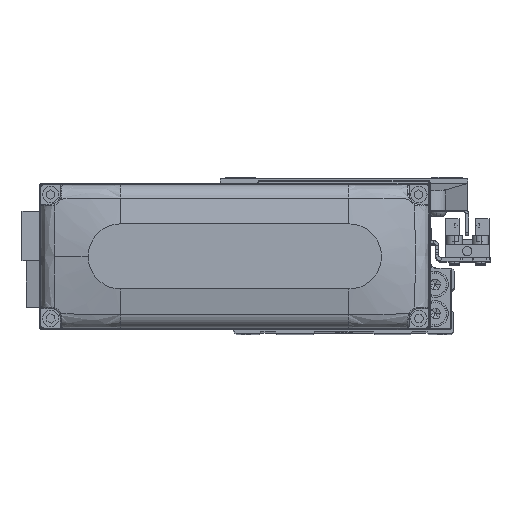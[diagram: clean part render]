
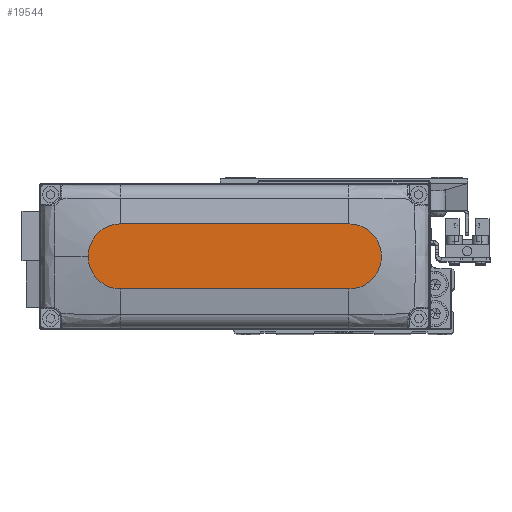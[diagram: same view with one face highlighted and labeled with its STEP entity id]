
A CAD part, top view. The second image highlights one B-rep face of the part: STEP entity #19544.
In plain terms, the highlighted planar face has unit normal (0, 0, 1).
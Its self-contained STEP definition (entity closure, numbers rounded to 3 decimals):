
#1217 = ORIENTED_EDGE ( 'NONE', *, *, #10410, .T. ) ;
#1505 = CARTESIAN_POINT ( 'NONE',  ( 0., 0., 28. ) ) ;
#1607 = DIRECTION ( 'NONE',  ( 0., 0., 1. ) ) ;
#2678 = DIRECTION ( 'NONE',  ( -1., 0., 0. ) ) ;
#7596 = DIRECTION ( 'NONE',  ( 0., 0., 1. ) ) ;
#8503 = DIRECTION ( 'NONE',  ( 1., 0., 0. ) ) ;
#8673 = AXIS2_PLACEMENT_3D ( 'NONE', #31531, #1607, #14940 ) ;
#9814 = CIRCLE ( 'NONE', #34185, 10. ) ;
#10410 = EDGE_CURVE ( 'NONE', #20889, #27041, #40100, .T. ) ;
#10446 = CARTESIAN_POINT ( 'NONE',  ( -35., -10., 28. ) ) ;
#10993 = ORIENTED_EDGE ( 'NONE', *, *, #12384, .T. ) ;
#11485 = ORIENTED_EDGE ( 'NONE', *, *, #15324, .T. ) ;
#11863 = VECTOR ( 'NONE', #23752, 1000. ) ;
#12384 = EDGE_CURVE ( 'NONE', #27041, #25118, #27483, .T. ) ;
#14842 = DIRECTION ( 'NONE',  ( 0., 0., 1. ) ) ;
#14940 = DIRECTION ( 'NONE',  ( 1., 0., 0. ) ) ;
#15324 = EDGE_CURVE ( 'NONE', #25118, #20271, #19278, .T. ) ;
#16120 = CARTESIAN_POINT ( 'NONE',  ( 35., 10., 28. ) ) ;
#18119 = FACE_OUTER_BOUND ( 'NONE', #30991, .T. ) ;
#19278 = LINE ( 'NONE', #32591, #36026 ) ;
#19544 = ADVANCED_FACE ( 'NONE', ( #18119 ), #31429, .T. ) ;
#20271 = VERTEX_POINT ( 'NONE', #40726 ) ;
#20889 = VERTEX_POINT ( 'NONE', #24676 ) ;
#20912 = DIRECTION ( 'NONE',  ( 1., 0., 0. ) ) ;
#23752 = DIRECTION ( 'NONE',  ( 1., 0., 0. ) ) ;
#24491 = ORIENTED_EDGE ( 'NONE', *, *, #35224, .T. ) ;
#24676 = CARTESIAN_POINT ( 'NONE',  ( 35., -10., 28. ) ) ;
#25072 = CARTESIAN_POINT ( 'NONE',  ( 35., 0., 28. ) ) ;
#25118 = VERTEX_POINT ( 'NONE', #16120 ) ;
#26861 = AXIS2_PLACEMENT_3D ( 'NONE', #25072, #38386, #8503 ) ;
#27041 = VERTEX_POINT ( 'NONE', #34165 ) ;
#27483 = CIRCLE ( 'NONE', #8673, 10. ) ;
#28146 = DIRECTION ( 'NONE',  ( 1., 0., 0. ) ) ;
#29013 = CARTESIAN_POINT ( 'NONE',  ( -35., -10., 28. ) ) ;
#29802 = VERTEX_POINT ( 'NONE', #29013 ) ;
#30805 = ORIENTED_EDGE ( 'NONE', *, *, #35292, .T. ) ;
#30991 = EDGE_LOOP ( 'NONE', ( #11485, #30805, #24491, #1217, #10993 ) ) ;
#31429 = PLANE ( 'NONE',  #37399 ) ;
#31531 = CARTESIAN_POINT ( 'NONE',  ( 35., 0., 28. ) ) ;
#32591 = CARTESIAN_POINT ( 'NONE',  ( -35., 10., 28. ) ) ;
#34165 = CARTESIAN_POINT ( 'NONE',  ( 45., 0., 28. ) ) ;
#34185 = AXIS2_PLACEMENT_3D ( 'NONE', #37480, #7596, #20912 ) ;
#35224 = EDGE_CURVE ( 'NONE', #29802, #20889, #40336, .T. ) ;
#35292 = EDGE_CURVE ( 'NONE', #20271, #29802, #9814, .T. ) ;
#36026 = VECTOR ( 'NONE', #2678, 1000. ) ;
#37399 = AXIS2_PLACEMENT_3D ( 'NONE', #1505, #14842, #28146 ) ;
#37480 = CARTESIAN_POINT ( 'NONE',  ( -35., 0., 28. ) ) ;
#38386 = DIRECTION ( 'NONE',  ( 0., 0., 1. ) ) ;
#40100 = CIRCLE ( 'NONE', #26861, 10. ) ;
#40336 = LINE ( 'NONE', #10446, #11863 ) ;
#40726 = CARTESIAN_POINT ( 'NONE',  ( -35., 10., 28. ) ) ;
